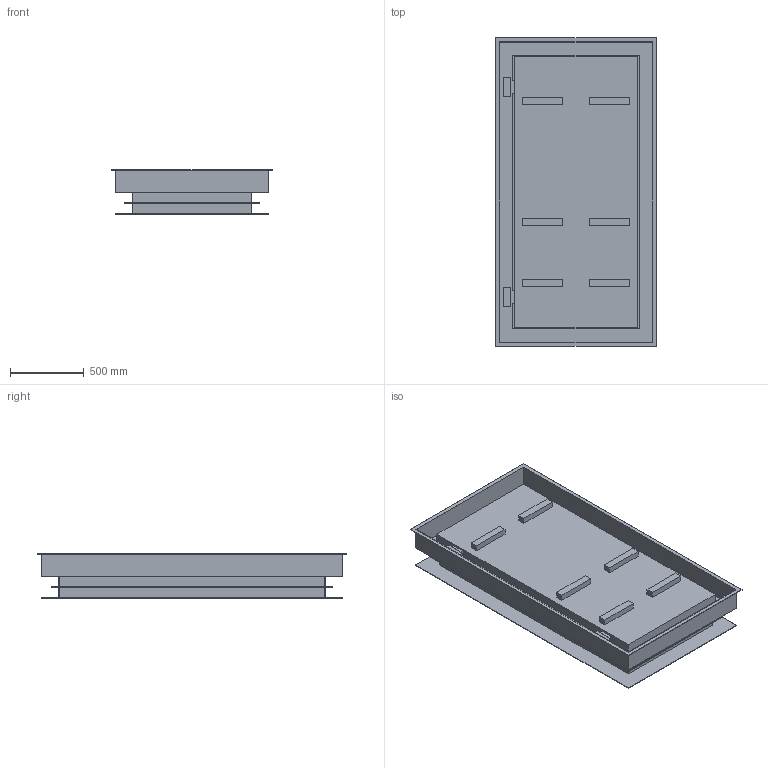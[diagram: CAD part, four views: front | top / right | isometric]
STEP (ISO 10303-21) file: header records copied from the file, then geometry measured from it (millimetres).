
FILE_DESCRIPTION((''),'2;1');
FILE_NAME('51459964','2020-03-10T07:46:31',('ka'),('HUBER SE'),'CREO PARAMETRIC BY PTC INC, 2019224','CREO PARAMETRIC BY PTC INC, 2019224','');
FILE_SCHEMA(('AUTOMOTIVE_DESIGN { 1 0 10303 214 1 1 1 1 }'));
Length unit declared in the file: millimetre
Products named in the file (1): 51459964
Bounding box: 1090 x 2090 x 300 mm (x, y, z)
Volume: 162238744 mm3; surface area: 10994128 mm2
Topology: 1 solids, 1 shells, 129 faces, 413 edges, 309 vertices
Faces by surface type: plane 129
Entity records: 6065 total; most frequent: CARTESIAN_POINT 923, DIRECTION 678, ORIENTED_EDGE 624, VECTOR 367, LINE 367, EDGE_CURVE 312, VERTEX_POINT 208, PRESENTATION_STYLE_ASSIGNMENT 187
